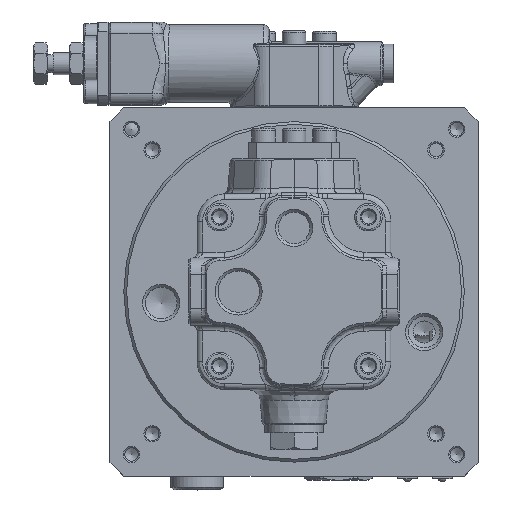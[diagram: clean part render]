
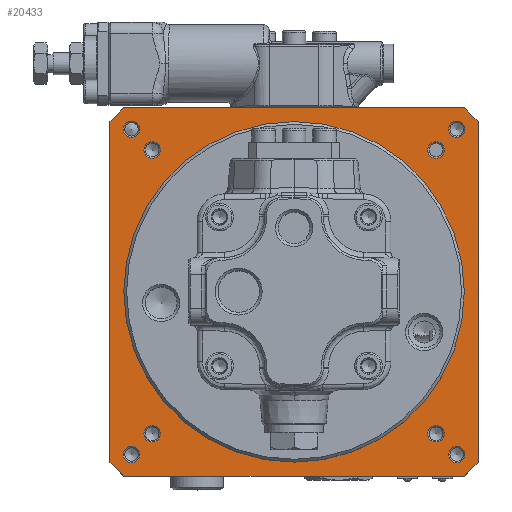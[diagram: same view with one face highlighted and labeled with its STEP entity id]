
A CAD part, top view. The second image highlights one B-rep face of the part: STEP entity #20433.
In plain terms, the highlighted planar face has unit normal (0, 0, 1).
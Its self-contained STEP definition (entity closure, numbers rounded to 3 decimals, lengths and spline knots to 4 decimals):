
#1515=FACE_BOUND('',#4542,.T.);
#1516=FACE_BOUND('',#4543,.T.);
#1517=FACE_BOUND('',#4544,.T.);
#1518=FACE_BOUND('',#4545,.T.);
#1519=FACE_BOUND('',#4546,.T.);
#1520=FACE_BOUND('',#4547,.T.);
#1521=FACE_BOUND('',#4548,.T.);
#1522=FACE_BOUND('',#4549,.T.);
#1523=FACE_BOUND('',#4550,.T.);
#2132=CIRCLE('',#22006,2.4213);
#2147=CIRCLE('',#22034,0.1165);
#2149=CIRCLE('',#22038,0.1165);
#2163=CIRCLE('',#22065,0.1165);
#2165=CIRCLE('',#22069,0.1165);
#2170=CIRCLE('',#22078,0.1165);
#2172=CIRCLE('',#22082,0.1165);
#2178=CIRCLE('',#22093,0.1165);
#2180=CIRCLE('',#22097,0.1165);
#3302=FACE_OUTER_BOUND('',#4541,.T.);
#4541=EDGE_LOOP('',(#16870,#16871,#16872,#16873,#16874,#16875,#16876,#16877));
#4542=EDGE_LOOP('',(#16878));
#4543=EDGE_LOOP('',(#16879));
#4544=EDGE_LOOP('',(#16880));
#4545=EDGE_LOOP('',(#16881));
#4546=EDGE_LOOP('',(#16882));
#4547=EDGE_LOOP('',(#16883));
#4548=EDGE_LOOP('',(#16884));
#4549=EDGE_LOOP('',(#16885));
#4550=EDGE_LOOP('',(#16886));
#4774=LINE('',#27310,#6100);
#5855=LINE('',#51032,#7181);
#5859=LINE('',#51041,#7185);
#5863=LINE('',#51049,#7189);
#5866=LINE('',#51063,#7192);
#5869=LINE('',#51068,#7195);
#5913=LINE('',#51264,#7239);
#5914=LINE('',#51265,#7240);
#6100=VECTOR('',#22435,0.3937);
#7181=VECTOR('',#26228,0.3937);
#7185=VECTOR('',#26234,0.3937);
#7189=VECTOR('',#26240,0.3937);
#7192=VECTOR('',#26253,0.3937);
#7195=VECTOR('',#26258,0.3937);
#7239=VECTOR('',#26486,0.3937);
#7240=VECTOR('',#26487,0.3937);
#7424=VERTEX_POINT('',#27308);
#7425=VERTEX_POINT('',#27309);
#8884=VERTEX_POINT('',#51030);
#8885=VERTEX_POINT('',#51031);
#8888=VERTEX_POINT('',#51039);
#8889=VERTEX_POINT('',#51040);
#8892=VERTEX_POINT('',#51048);
#8898=VERTEX_POINT('',#51062);
#8900=VERTEX_POINT('',#51071);
#8918=VERTEX_POINT('',#51128);
#8920=VERTEX_POINT('',#51136);
#8943=VERTEX_POINT('',#51199);
#8945=VERTEX_POINT('',#51207);
#8950=VERTEX_POINT('',#51225);
#8952=VERTEX_POINT('',#51233);
#8958=VERTEX_POINT('',#51256);
#8960=VERTEX_POINT('',#51266);
#9207=EDGE_CURVE('',#7424,#7425,#4774,.T.);
#11562=EDGE_CURVE('',#8884,#8885,#5855,.T.);
#11566=EDGE_CURVE('',#8888,#8889,#5859,.T.);
#11570=EDGE_CURVE('',#8885,#8892,#5863,.T.);
#11577=EDGE_CURVE('',#7425,#8898,#5866,.T.);
#11580=EDGE_CURVE('',#8892,#7424,#5869,.T.);
#11582=EDGE_CURVE('',#8900,#8900,#2132,.T.);
#11608=EDGE_CURVE('',#8918,#8918,#2147,.T.);
#11612=EDGE_CURVE('',#8920,#8920,#2149,.T.);
#11639=EDGE_CURVE('',#8943,#8943,#2163,.T.);
#11643=EDGE_CURVE('',#8945,#8945,#2165,.T.);
#11652=EDGE_CURVE('',#8950,#8950,#2170,.T.);
#11656=EDGE_CURVE('',#8952,#8952,#2172,.T.);
#11668=EDGE_CURVE('',#8958,#8958,#2178,.T.);
#11672=EDGE_CURVE('',#8898,#8888,#5913,.T.);
#11673=EDGE_CURVE('',#8889,#8884,#5914,.T.);
#11674=EDGE_CURVE('',#8960,#8960,#2180,.T.);
#16870=ORIENTED_EDGE('',*,*,#11566,.F.);
#16871=ORIENTED_EDGE('',*,*,#11672,.F.);
#16872=ORIENTED_EDGE('',*,*,#11577,.F.);
#16873=ORIENTED_EDGE('',*,*,#9207,.F.);
#16874=ORIENTED_EDGE('',*,*,#11580,.F.);
#16875=ORIENTED_EDGE('',*,*,#11570,.F.);
#16876=ORIENTED_EDGE('',*,*,#11562,.F.);
#16877=ORIENTED_EDGE('',*,*,#11673,.F.);
#16878=ORIENTED_EDGE('',*,*,#11668,.F.);
#16879=ORIENTED_EDGE('',*,*,#11652,.F.);
#16880=ORIENTED_EDGE('',*,*,#11639,.F.);
#16881=ORIENTED_EDGE('',*,*,#11608,.F.);
#16882=ORIENTED_EDGE('',*,*,#11582,.F.);
#16883=ORIENTED_EDGE('',*,*,#11612,.F.);
#16884=ORIENTED_EDGE('',*,*,#11643,.F.);
#16885=ORIENTED_EDGE('',*,*,#11656,.F.);
#16886=ORIENTED_EDGE('',*,*,#11674,.F.);
#18184=PLANE('',#22096);
#20433=ADVANCED_FACE('',(#3302,#1515,#1516,#1517,#1518,#1519,#1520,#1521,
#1522,#1523),#18184,.T.);
#22006=AXIS2_PLACEMENT_3D('',#51072,#26262,#26263);
#22034=AXIS2_PLACEMENT_3D('',#51129,#26329,#26330);
#22038=AXIS2_PLACEMENT_3D('',#51137,#26339,#26340);
#22065=AXIS2_PLACEMENT_3D('',#51200,#26406,#26407);
#22069=AXIS2_PLACEMENT_3D('',#51208,#26416,#26417);
#22078=AXIS2_PLACEMENT_3D('',#51226,#26438,#26439);
#22082=AXIS2_PLACEMENT_3D('',#51234,#26448,#26449);
#22093=AXIS2_PLACEMENT_3D('',#51257,#26476,#26477);
#22096=AXIS2_PLACEMENT_3D('',#51263,#26484,#26485);
#22097=AXIS2_PLACEMENT_3D('',#51267,#26488,#26489);
#22435=DIRECTION('',(-1.,0.,0.));
#26228=DIRECTION('',(0.707,-0.707,0.));
#26234=DIRECTION('',(0.707,0.707,0.));
#26240=DIRECTION('',(0.,-1.,0.));
#26253=DIRECTION('',(-0.707,0.707,0.));
#26258=DIRECTION('',(-0.707,-0.707,0.));
#26262=DIRECTION('center_axis',(0.,0.,
1.));
#26263=DIRECTION('ref_axis',(-1.,0.,0.));
#26329=DIRECTION('center_axis',(0.,0.,
1.));
#26330=DIRECTION('ref_axis',(1.,0.,0.));
#26339=DIRECTION('center_axis',(0.,0.,
1.));
#26340=DIRECTION('ref_axis',(1.,0.,0.));
#26406=DIRECTION('center_axis',(0.,0.,
1.));
#26407=DIRECTION('ref_axis',(0.,1.,0.));
#26416=DIRECTION('center_axis',(0.,0.,
1.));
#26417=DIRECTION('ref_axis',(0.,1.,0.));
#26438=DIRECTION('center_axis',(0.,0.,
1.));
#26439=DIRECTION('ref_axis',(-1.,0.,0.));
#26448=DIRECTION('center_axis',(0.,0.,
1.));
#26449=DIRECTION('ref_axis',(-1.,0.,0.));
#26476=DIRECTION('center_axis',(0.,0.,
1.));
#26477=DIRECTION('ref_axis',(0.,-1.,0.));
#26484=DIRECTION('center_axis',(0.,0.,
1.));
#26485=DIRECTION('ref_axis',(1.,0.,0.));
#26486=DIRECTION('',(0.,1.,0.));
#26487=DIRECTION('',(1.,0.,0.));
#26488=DIRECTION('center_axis',(0.,0.,
1.));
#26489=DIRECTION('ref_axis',(0.,-1.,0.));
#27308=CARTESIAN_POINT('',(2.082,-2.6059,-1.6909));
#27309=CARTESIAN_POINT('',(-2.7605,-2.6059,-1.6909));
#27310=CARTESIAN_POINT('',(0.9698,-2.6059,-1.6909));
#51030=CARTESIAN_POINT('',(2.082,2.6304,-1.6909));
#51031=CARTESIAN_POINT('',(2.2789,2.4335,-1.6909));
#51032=CARTESIAN_POINT('',(2.1805,2.5319,-1.6909));
#51039=CARTESIAN_POINT('',(-2.9573,2.4335,-1.6909));
#51040=CARTESIAN_POINT('',(-2.7605,2.6304,-1.6909));
#51041=CARTESIAN_POINT('',(-2.8589,2.5319,-1.6909));
#51048=CARTESIAN_POINT('',(2.2789,-2.409,-1.6909));
#51049=CARTESIAN_POINT('',(2.2789,1.3213,-1.6909));
#51062=CARTESIAN_POINT('',(-2.9573,-2.409,-1.6909));
#51063=CARTESIAN_POINT('',(-2.8589,-2.5074,-1.6909));
#51068=CARTESIAN_POINT('',(2.1805,-2.5074,-1.6909));
#51071=CARTESIAN_POINT('',(2.082,0.0123,-1.6909));
#51072=CARTESIAN_POINT('Origin',(-0.3392,0.0123,
-1.6909));
#51128=CARTESIAN_POINT('',(-2.4734,2.03,-1.6909));
#51129=CARTESIAN_POINT('Origin',(-2.3569,2.03,-1.6909));
#51136=CARTESIAN_POINT('',(-2.7687,2.3252,-1.6909));
#51137=CARTESIAN_POINT('Origin',(-2.6522,2.3252,-1.6909));
#51199=CARTESIAN_POINT('',(-2.3569,-2.1219,-1.6909));
#51200=CARTESIAN_POINT('Origin',(-2.3569,-2.0055,-1.6909));
#51207=CARTESIAN_POINT('',(-2.6522,-2.4172,-1.6909));
#51208=CARTESIAN_POINT('Origin',(-2.6522,-2.3007,-1.6909));
#51225=CARTESIAN_POINT('',(1.795,-2.0055,-1.6909));
#51226=CARTESIAN_POINT('Origin',(1.6785,-2.0055,-1.6909));
#51233=CARTESIAN_POINT('',(2.0903,-2.3007,-1.6909));
#51234=CARTESIAN_POINT('Origin',(1.9738,-2.3007,-1.6909));
#51256=CARTESIAN_POINT('',(1.6785,2.1464,-1.6909));
#51257=CARTESIAN_POINT('Origin',(1.6785,2.03,-1.6909));
#51263=CARTESIAN_POINT('Origin',(-0.3392,0.0123,
-1.6909));
#51264=CARTESIAN_POINT('',(-2.9573,-1.2968,-1.6909));
#51265=CARTESIAN_POINT('',(-1.6483,2.6304,-1.6909));
#51266=CARTESIAN_POINT('',(1.9738,2.4417,-1.6909));
#51267=CARTESIAN_POINT('Origin',(1.9738,2.3252,-1.6909));
